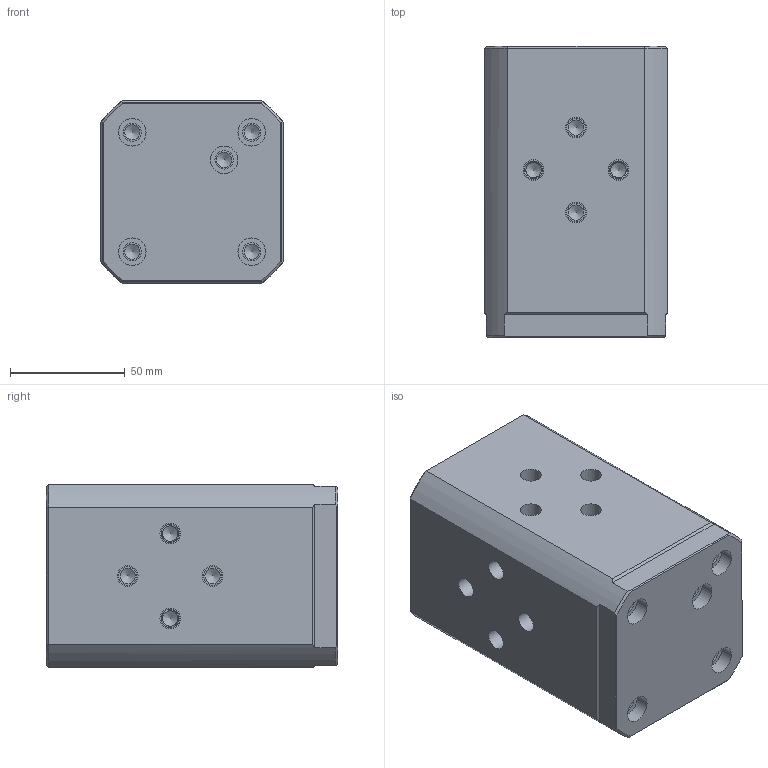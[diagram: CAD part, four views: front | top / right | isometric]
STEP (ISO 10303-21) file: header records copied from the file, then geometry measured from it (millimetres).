
FILE_DESCRIPTION(/* description */ (''),/* implementation_level */ '2;1');
FILE_NAME(/* name */ '',/* time_stamp */ '2025-02-27T13:13:46+08:00',/* author */ (''),/* organization */ (''),/* preprocessor_version */ 'ST-DEVELOPER v11',/* originating_system */ 'SIEMENS PLM Software NX 7.0',/* authorisation */ '');
FILE_SCHEMA (('CONFIG_CONTROL_DESIGN'));
Length unit declared in the file: millimetre
Products named in the file (1): Admi28AFa6rv
Bounding box: 80 x 127 x 80 mm (x, y, z)
Volume: 758875.1 mm3; surface area: 62482.3 mm2
Topology: 1 solids, 1 shells, 200 faces, 462 edges, 290 vertices
Faces by surface type: plane 88, cylinder 83, cone 29
Full cylindrical faces by diameter (mm): 6.7 x21, 8 x21, 9 x16, 12 x5
Entity records: 5222 total; most frequent: CARTESIAN_POINT 1211, DIRECTION 880, ORIENTED_EDGE 620, AXIS2_PLACEMENT_3D 400, EDGE_LOOP 318, EDGE_CURVE 310, FACE_BOUND 262, VERTEX_POINT 243
